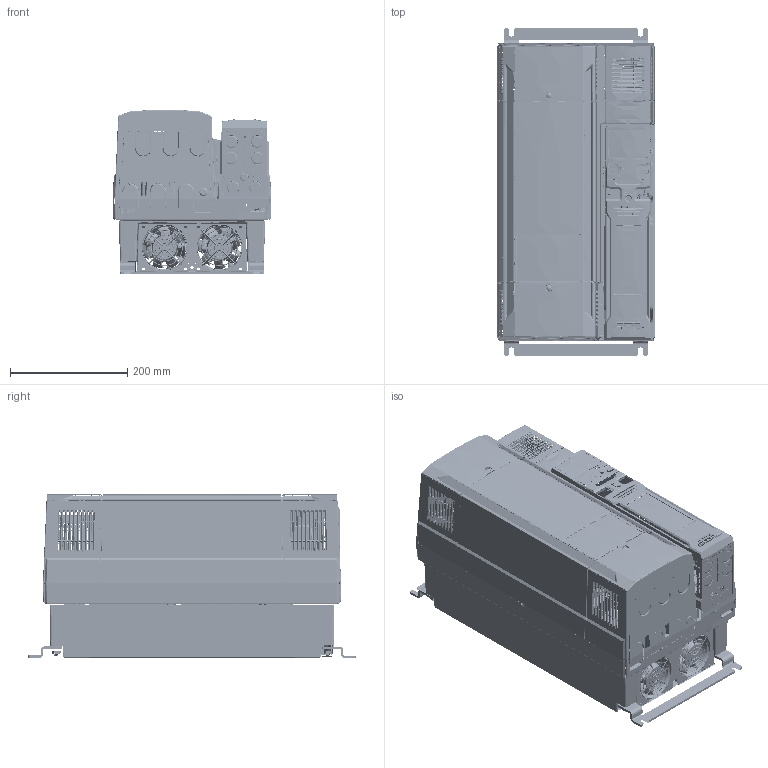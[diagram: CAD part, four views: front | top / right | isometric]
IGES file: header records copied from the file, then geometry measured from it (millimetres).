
Start section:  PTC IGES file: external_gt11-f09.igs
Global section: file name: external_gt11-f09.igs; native system: Pro/ENGINEER by Parametric Technology Corporation; preprocessor: 2011490; author: P94061; organization: Unknown; date: 20130829.100406; units: millimetre
Bounding box: 270.01 x 557 x 280.34 mm (x, y, z)
Surface area: 1888433.3 mm2 (no closed solid volume)
Topology: 0 solids, 1655 shells, 5064 faces, 43027 edges, 39190 vertices
Faces by surface type: bspline 5064
